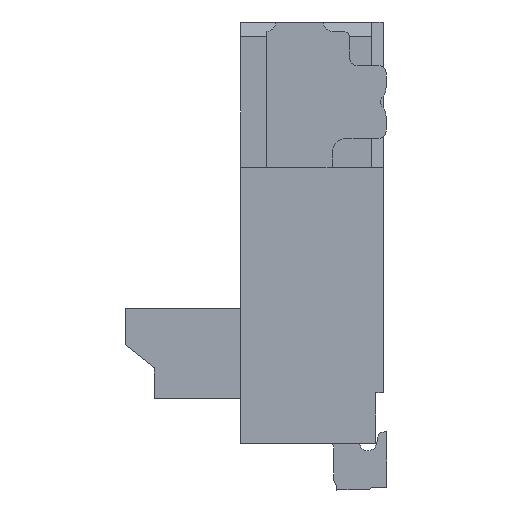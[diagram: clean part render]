
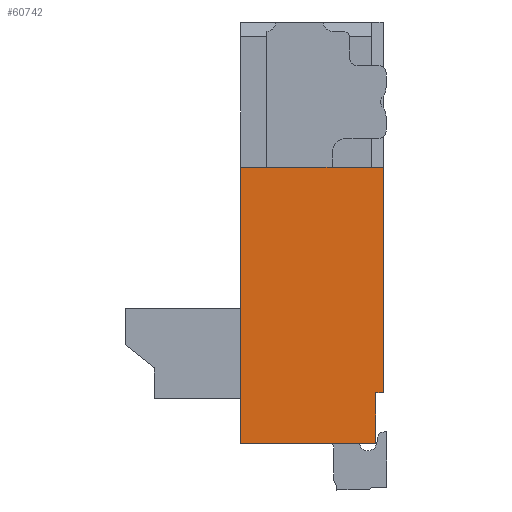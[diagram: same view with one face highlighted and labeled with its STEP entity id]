
A CAD part, left-side view. The second image highlights one B-rep face of the part: STEP entity #60742.
In plain terms, the highlighted planar face has unit normal (-1, 0, 0).
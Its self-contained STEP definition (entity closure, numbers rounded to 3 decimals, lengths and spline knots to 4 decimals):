
#15=DIRECTION('',(0.,1.,0.));
#16=VECTOR('',#15,0.98);
#17=CARTESIAN_POINT('',(0.,0.,-1.));
#18=LINE('',#17,#16);
#483=DIRECTION('',(0.,0.,-1.));
#484=VECTOR('',#483,1.9);
#485=CARTESIAN_POINT('',(0.,0.98,-1.));
#486=LINE('',#485,#484);
#499=DIRECTION('',(0.,-1.,0.));
#500=VECTOR('',#499,0.93);
#501=CARTESIAN_POINT('',(0.,0.98,-2.9));
#502=LINE('',#501,#500);
#515=DIRECTION('',(0.,0.,1.));
#516=VECTOR('',#515,0.35);
#517=CARTESIAN_POINT('',(0.,0.05,-2.9));
#518=LINE('',#517,#516);
#595=DIRECTION('',(0.,0.,1.));
#596=VECTOR('',#595,1.55);
#597=CARTESIAN_POINT('',(0.,0.,-2.55));
#598=LINE('',#597,#596);
#45955=DIRECTION('',(0.,-1.,0.));
#45956=VECTOR('',#45955,0.05);
#45957=CARTESIAN_POINT('',(0.,0.05,-2.55));
#45958=LINE('',#45957,#45956);
#45967=CARTESIAN_POINT('',(0.,0.,-1.));
#45968=CARTESIAN_POINT('',(0.,0.98,-1.));
#45969=VERTEX_POINT('',#45967);
#45970=VERTEX_POINT('',#45968);
#45971=CARTESIAN_POINT('',(0.,0.,-2.55));
#45972=VERTEX_POINT('',#45971);
#45973=CARTESIAN_POINT('',(0.,0.05,-2.55));
#45974=VERTEX_POINT('',#45973);
#45975=CARTESIAN_POINT('',(0.,0.05,-2.9));
#45976=VERTEX_POINT('',#45975);
#45977=CARTESIAN_POINT('',(0.,0.98,-2.9));
#45978=VERTEX_POINT('',#45977);
#60723=CARTESIAN_POINT('',(0.,0.49,-1.95));
#60724=DIRECTION('',(1.,0.,0.));
#60725=DIRECTION('',(0.,0.,-1.));
#60726=AXIS2_PLACEMENT_3D('',#60723,#60724,#60725);
#60727=PLANE('',#60726);
#60729=ORIENTED_EDGE('',*,*,#60728,.F.);
#60731=ORIENTED_EDGE('',*,*,#60730,.F.);
#60733=ORIENTED_EDGE('',*,*,#60732,.F.);
#60735=ORIENTED_EDGE('',*,*,#60734,.F.);
#60737=ORIENTED_EDGE('',*,*,#60736,.F.);
#60739=ORIENTED_EDGE('',*,*,#60738,.F.);
#60740=EDGE_LOOP('',(#60729,#60731,#60733,#60735,#60737,#60739));
#60741=FACE_OUTER_BOUND('',#60740,.F.);
#60742=ADVANCED_FACE('',(#60741),#60727,.F.);
#60728=EDGE_CURVE('',#45969,#45970,#18,.T.);
#60730=EDGE_CURVE('',#45972,#45969,#598,.T.);
#60732=EDGE_CURVE('',#45974,#45972,#45958,.T.);
#60734=EDGE_CURVE('',#45976,#45974,#518,.T.);
#60736=EDGE_CURVE('',#45978,#45976,#502,.T.);
#60738=EDGE_CURVE('',#45970,#45978,#486,.T.);
